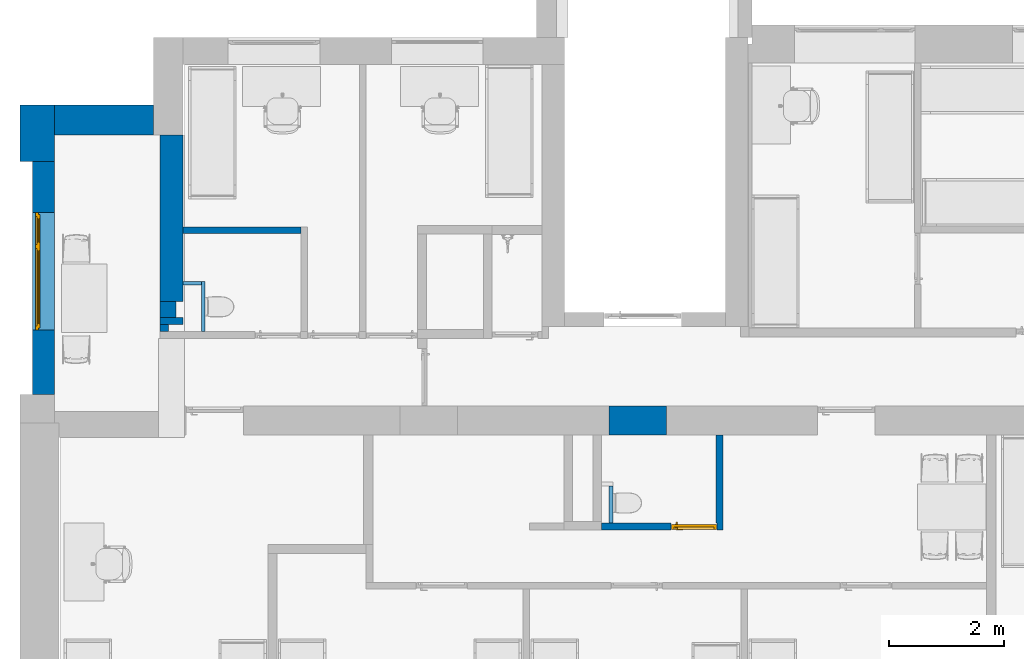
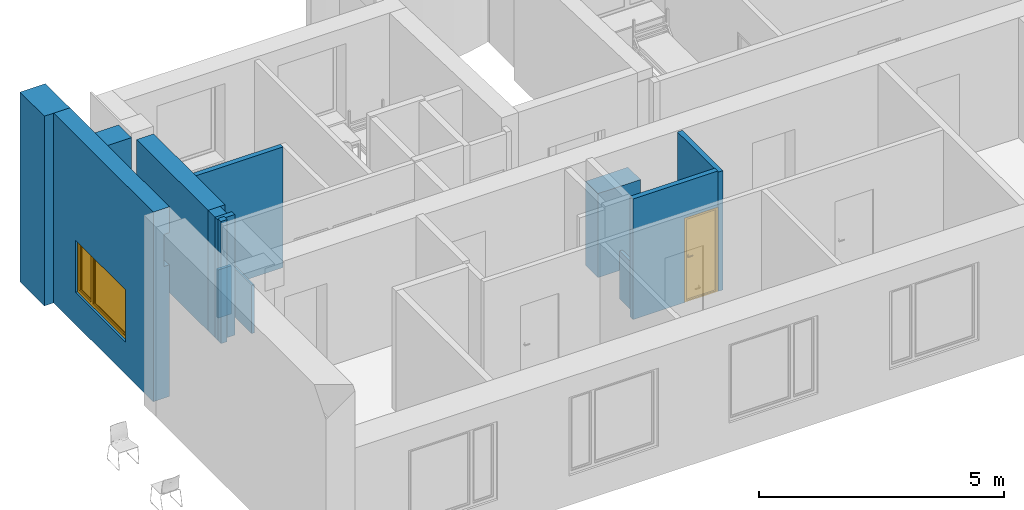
# One storey, part 4 of 46: 14 walls, 1 door, 1 window, 3 openings.
"""IFC2X3 building model written with IfcOpenShell, lengths in millimetres."""

from ifc_helpers import new_model, entity, si_unit, converted_unit, derived_unit, direction, frame, frame_2d, origin, place, context, subcontext, project, spatial, polyline, rectangle, extrude, clip, bounded_halfspace, faceted_brep, source, transform, mapped, material, material_list, layer, layer_set, layer_usage, type_object, type_shapes, element, fill, save


model = new_model("IFC2X3")

# Units and contexts
model_context = context("Model", 3, precision=0.01, world=origin(), true_north=direction((6.12303176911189e-17, 1.0)))
body_context = subcontext(model_context, "Body", "Model", "MODEL_VIEW")
ifc_project = project(units=[si_unit("LENGTHUNIT", "METRE", prefix="MILLI"), si_unit("AREAUNIT", "SQUARE_METRE"), si_unit("VOLUMEUNIT", "CUBIC_METRE"), converted_unit("PLANEANGLEUNIT", "DEGREE", entity("IfcRatioMeasure", 0.0174532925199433), si_unit("PLANEANGLEUNIT", "RADIAN"), dimensions=[0, 0, 0, 0, 0, 0, 0]), si_unit("MASSUNIT", "GRAM", prefix="KILO"), derived_unit("MASSDENSITYUNIT", [(si_unit("MASSUNIT", "GRAM", prefix="KILO"), 1), (si_unit("LENGTHUNIT", "METRE"), -3)]), si_unit("TIMEUNIT", "SECOND"), si_unit("FREQUENCYUNIT", "HERTZ"), si_unit("THERMODYNAMICTEMPERATUREUNIT", "DEGREE_CELSIUS"), derived_unit("THERMALTRANSMITTANCEUNIT", [(si_unit("MASSUNIT", "GRAM", prefix="KILO"), 1), (si_unit("THERMODYNAMICTEMPERATUREUNIT", "KELVIN"), -1), (si_unit("TIMEUNIT", "SECOND"), -3)]), derived_unit("VOLUMETRICFLOWRATEUNIT", [(si_unit("LENGTHUNIT", "METRE"), 3), (si_unit("TIMEUNIT", "SECOND"), -1)]), si_unit("ELECTRICCURRENTUNIT", "AMPERE"), si_unit("ELECTRICVOLTAGEUNIT", "VOLT"), si_unit("POWERUNIT", "WATT"), si_unit("FORCEUNIT", "NEWTON", prefix="KILO"), si_unit("ILLUMINANCEUNIT", "LUX"), si_unit("LUMINOUSFLUXUNIT", "LUMEN"), si_unit("LUMINOUSINTENSITYUNIT", "CANDELA"), derived_unit("USERDEFINED", [(si_unit("MASSUNIT", "GRAM", prefix="KILO"), -1), (si_unit("LENGTHUNIT", "METRE"), -2), (si_unit("TIMEUNIT", "SECOND"), 3), (si_unit("LUMINOUSFLUXUNIT", "LUMEN"), 1)]), derived_unit("LINEARVELOCITYUNIT", [(si_unit("LENGTHUNIT", "METRE"), 1), (si_unit("TIMEUNIT", "SECOND"), -1)]), si_unit("PRESSUREUNIT", "PASCAL"), derived_unit("USERDEFINED", [(si_unit("LENGTHUNIT", "METRE"), -2), (si_unit("MASSUNIT", "GRAM", prefix="KILO"), 1), (si_unit("TIMEUNIT", "SECOND"), -2)]), derived_unit("LINEARFORCEUNIT", [(si_unit("MASSUNIT", "GRAM", prefix="KILO"), 1), (si_unit("LENGTHUNIT", "METRE"), 1), (si_unit("TIMEUNIT", "SECOND"), -2), (si_unit("LENGTHUNIT", "METRE"), -1)]), derived_unit("PLANARFORCEUNIT", [(si_unit("MASSUNIT", "GRAM", prefix="KILO"), 1), (si_unit("LENGTHUNIT", "METRE"), 1), (si_unit("TIMEUNIT", "SECOND"), -2), (si_unit("LENGTHUNIT", "METRE"), -2)])], contexts=[model_context])

# Site, building, storey
site_placement = place(None, origin())
site = spatial("IfcSite", under=ifc_project, at=site_placement, Name="Default", CompositionType="ELEMENT")
building_placement = place(site_placement, origin())
building = spatial("IfcBuilding", under=site, at=building_placement, Name="SMA ARH", CompositionType="ELEMENT")
storey_placement = place(building_placement, frame((0.0, 0.0, 9910.0)))
storey = spatial("IfcBuildingStorey", under=building, at=storey_placement, Name="4 Korrus", CompositionType="ELEMENT", Elevation=9909.9999999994)

# Walls
ifc_material_1 = material(Name="_ol.olev sein")
ifc_layer_1 = layer(ifc_material_1, 520.0)
ifc_layer_set_1 = layer_set([ifc_layer_1], Name="Basic Wall:Generic - 520mm")
ifc_layer_usage_1 = layer_usage(ifc_layer_set_1, "AXIS2", "NEGATIVE", 260.0)
wall_type_1 = type_object("IfcWallType", Name="Basic Wall:Generic - 520mm", PredefinedType="STANDARD", material=ifc_layer_set_1)
wall_1_placement = place(storey_placement, frame((-100.0, 11510.0, 0.0)))
element("IfcWallStandardCase", 1, at=wall_1_placement, inside=storey, type_object=wall_type_1, material=ifc_layer_usage_1, Name="Basic Wall:Generic - 520mm", ObjectType="Basic Wall:Generic - 520mm", context=body_context, shape_type="SweptSolid", body=[
    extrude(rectangle(XDim=1725.00000000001, YDim=519.999999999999, at=frame_2d((862.500000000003, -1.13686837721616e-13), x_axis=(-1.0, 0.0))), origin(), (0.0, 0.0, 1.0), 3090.00000000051),
])
ifc_layer_2 = layer(ifc_material_1, 280.0)
ifc_layer_set_2 = layer_set([ifc_layer_2], Name="Basic Wall:Generic - 280mm")
ifc_layer_usage_2 = layer_usage(ifc_layer_set_2, "AXIS2", "NEGATIVE", 140.0)
wall_type_2 = type_object("IfcWallType", Name="Basic Wall:Generic - 280mm", PredefinedType="STANDARD", material=ifc_layer_set_2)
wall_2_placement = place(storey_placement, frame((1885.0, 8341.44692735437, 0.0), z_axis=(0.0, 0.0, 1.0), x_axis=(0.0, -1.0, 0.0)))
element("IfcWallStandardCase", 2, at=wall_2_placement, inside=storey, type_object=wall_type_2, material=ifc_layer_usage_2, Name="Basic Wall:Generic - 280mm", ObjectType="Basic Wall:Generic - 280mm", context=body_context, shape_type="SweptSolid", body=[
    extrude(rectangle(XDim=279.999999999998, YDim=280.0, at=frame_2d((139.999999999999, -2.8421709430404e-14), x_axis=(-1.0, 0.0))), origin(), (0.0, 0.0, 1.0), 3001.0500000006),
])
ifc_layer_3 = layer(ifc_material_1, 600.0)
ifc_layer_set_3 = layer_set([ifc_layer_3], Name="Basic Wall:Generic - 600mm")
ifc_layer_usage_3 = layer_usage(ifc_layer_set_3, "AXIS2", "NEGATIVE", 300.0)
wall_type_3 = type_object("IfcWallType", Name="Basic Wall:Generic - 600mm", PredefinedType="STANDARD", material=ifc_layer_set_3)
wall_3_placement = place(storey_placement, frame((-400.0, 10780.0, 0.0), z_axis=(0.0, 0.0, 1.0), x_axis=(0.0, 1.0, 0.0)))
element("IfcWallStandardCase", 3, at=wall_3_placement, inside=storey, type_object=wall_type_3, material=ifc_layer_usage_3, Name="Basic Wall:Generic - 600mm", ObjectType="Basic Wall:Generic - 600mm", context=body_context, shape_type="SweptSolid", body=[
    extrude(rectangle(XDim=990.0, YDim=600.0, at=frame_2d((495.0, 2.8421709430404e-14), x_axis=(-1.0, 0.0))), origin(), (0.0, 0.0, 1.0), 4720.00000000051),
])
ifc_layer_4 = layer(ifc_material_1, 400.0)
ifc_layer_set_4 = layer_set([ifc_layer_4], Name="Basic Wall:Generic - 400mm")
ifc_layer_usage_4 = layer_usage(ifc_layer_set_4, "AXIS2", "NEGATIVE", 200.0)
wall_type_4 = type_object("IfcWallType", Name="Basic Wall:Generic - 400mm", PredefinedType="STANDARD", material=ifc_layer_set_4)
wall_4_placement = place(storey_placement, frame((1945.0, 11250.0, 0.0), z_axis=(0.0, 0.0, 1.0), x_axis=(0.0, -1.0, 0.0)))
element("IfcWallStandardCase", 4, at=wall_4_placement, inside=storey, type_object=wall_type_4, material=ifc_layer_usage_4, Name="Basic Wall:Generic - 400mm", ObjectType="Basic Wall:Generic - 400mm", context=body_context, shape_type="Clipping", body=[
    clip(extrude(rectangle(XDim=2908.55307264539, YDim=400.0, at=frame_2d((1454.2765363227, -1.4210854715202e-14), x_axis=(-1.0, 0.0))), origin(), (0.0, 0.0, 1.0), 3001.0500000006), bounded_halfspace(frame((80.0, -200.0, 3001.0500000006), z_axis=(0.0, 0.0, -1.0), x_axis=(-1.0, 0.0, 0.0)), True, frame((80.0, -200.0, 3001.0500000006)), polyline([(0.0, 0.0), (2828.55307264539, 0.0), (2828.55307264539, 280.0), (2828.55307264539, 400.0), (1642.49999999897, 400.0), (1526.49999999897, 400.0), (0.0, 400.0), (0.0, 0.0)]))),
])
ifc_layer_usage_5 = layer_usage(ifc_layer_set_4, "AXIS2", "NEGATIVE", 200.0)
wall_5_placement = place(storey_placement, frame((1945.0, 8061.44692735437, 0.0), z_axis=(0.0, 0.0, 1.0), x_axis=(0.0, -1.0, 0.0)))
element("IfcWallStandardCase", 5, at=wall_5_placement, inside=storey, type_object=wall_type_4, material=ifc_layer_usage_5, Name="Basic Wall:Generic - 400mm", ObjectType="Basic Wall:Generic - 400mm", context=body_context, shape_type="Clipping", body=[
    clip(extrude(rectangle(XDim=120.000000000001, YDim=400.0, at=frame_2d((60.0000000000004, -2.8421709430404e-14), x_axis=(-1.0, 0.0))), origin(), (0.0, 0.0, 1.0), 3001.0500000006), bounded_halfspace(frame((0.0, -200.0, 3001.0500000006), z_axis=(0.0, 0.0, -1.0), x_axis=(-1.0, 0.0, 0.0)), True, frame((0.0, -200.0, 3001.0500000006)), polyline([(0.0, 0.0), (120.0, 0.0), (120.0, 400.0), (0.0, 400.0), (0.0, 280.0), (0.0, 0.0)]))),
])

# Wall, opening, window
ifc_layer_5 = layer(ifc_material_1, 380.0)
ifc_layer_set_5 = layer_set([ifc_layer_5], Name="Basic Wall:Generic - 380mm")
ifc_layer_usage_6 = layer_usage(ifc_layer_set_5, "AXIS2", "NEGATIVE", 190.0)
wall_type_5 = type_object("IfcWallType", Name="Basic Wall:Generic - 380mm", PredefinedType="STANDARD", material=ifc_layer_set_5)
wall_6_placement = place(storey_placement, frame((-290.0, 6720.0, 0.0), z_axis=(0.0, 0.0, 1.0), x_axis=(0.0, 1.0, 0.0)))
wall_6 = element("IfcWallStandardCase", 6, at=wall_6_placement, inside=storey, type_object=wall_type_5, material=ifc_layer_usage_6, Name="Basic Wall:Generic - 380mm", ObjectType="Basic Wall:Generic - 380mm", context=body_context, shape_type="Clipping", body=[
    clip(extrude(rectangle(XDim=4059.99999999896, YDim=380.0, at=frame_2d((2029.99999999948, 0.0), x_axis=(-1.0, 0.0))), origin(), (0.0, 0.0, 1.0), 4720.00000000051), bounded_halfspace(frame((0.0, -63.2428498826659, 3275.06435937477), z_axis=(0.0, 1.0, 0.0), x_axis=(-1.0, 0.0, 0.0)), True, frame((0.0, -63.2428498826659, 3275.06435937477), z_axis=(0.0, 1.0, 0.0), x_axis=(-1.0, 0.0, 0.0)), polyline([(0.0, 0.0), (0.0, 800.487635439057), (-4060.0, 658.709311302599), (-4060.0, -141.778324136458), (0.0, 0.0)]))),
])
opening_1_placement = place(wall_6_placement, frame((1125.0, -190.0, 800.0)))
opening_1 = element("IfcOpeningElement", 7, at=opening_1_placement, cuts=wall_6, Name="SMA_W2, 2-jaotus:A-00 - 2100x1300:1", ObjectType="Opening", context=body_context, shape_type="SweptSolid", body=[
    extrude(rectangle(XDim=1300.0, YDim=2050.0, at=frame_2d((650.0, 1025.0), x_axis=(1.0, 0.0))), frame((0.0, 0.0, 0.0), z_axis=(0.0, 1.0, 0.0), x_axis=(0.0, 0.0, 1.0)), (0.0, 0.0, 1.0), 380.0),
])
ifc_material_2 = material(Name="Glass")
ifc_material_3 = material(Name="Hall")
ifc_material_list_1 = material_list([ifc_material_2, ifc_material_3])
ifc_material_4 = material(Name="<Unnamed>")
ifc_material_list_2 = material_list([ifc_material_2, ifc_material_4, ifc_material_3, ifc_material_3, ifc_material_4])
window_style = type_object("IfcWindowStyle", Name="SMA_W2, 2-jaotus:A-00 - 2100x1300", ConstructionType="NOTDEFINED", OperationType="NOTDEFINED", ParameterTakesPrecedence=False, Sizeable=False, material=ifc_material_list_2)
shared_shape_1 = source(origin(), body_context, "Body", "Brep", [
    faceted_brep([(105.0, 270.0, 1195.0), (105.0, 270.0, 105.0), (1390.0, 270.0, 105.0), (1390.0, 270.0, 1195.0), (105.0, 290.0, 1195.0), (105.0, 290.0, 105.0), (1390.0, 290.0, 105.0), (1390.0, 290.0, 1195.0)], [[[0, 1, 2, 3]], [[1, 0, 4, 5]], [[2, 1, 5, 6]], [[3, 2, 6, 7]], [[4, 7, 6, 5]], [[0, 3, 7, 4]]]),
    faceted_brep([(1530.0, 270.0, 105.0), (1945.0, 270.0, 105.0), (1945.0, 270.0, 1195.0), (1530.0, 270.0, 1195.0), (1530.0, 290.0, 105.0), (1945.0, 290.0, 105.0), (1945.0, 290.0, 1195.0), (1530.0, 290.0, 1195.0)], [[[0, 1, 2, 3]], [[1, 0, 4, 5]], [[2, 1, 5, 6]], [[0, 3, 7, 4]], [[4, 7, 6, 5]], [[3, 2, 6, 7]]]),
    faceted_brep([(35.0, 255.0, 35.0), (1460.0, 255.0, 35.0), (1460.0, 255.0, 1265.0), (35.0, 255.0, 1265.0), (1390.0, 255.0, 1195.0), (1390.0, 255.0, 105.0), (105.0, 255.0, 105.0), (105.0, 255.0, 1195.0), (35.0, 305.0, 35.0), (1460.0, 305.0, 35.0), (1460.0, 305.0, 1265.0), (35.0, 305.0, 1265.0), (1390.0, 305.0, 1195.0), (1390.0, 305.0, 105.0), (105.0, 305.0, 105.0), (105.0, 305.0, 1195.0)], [[[0, 1, 2, 3], [4, 5, 6, 7]], [[1, 0, 8, 9]], [[2, 1, 9, 10]], [[0, 3, 11, 8]], [[5, 4, 12, 13]], [[6, 5, 13, 14]], [[7, 6, 14, 15]], [[8, 11, 10, 9], [12, 15, 14, 13]], [[3, 2, 10, 11]], [[4, 7, 15, 12]]]),
    faceted_brep([(1460.0, 255.0, 35.0), (2015.0, 255.0, 35.0), (2015.0, 255.0, 1265.0), (1460.0, 255.0, 1265.0), (1945.0, 255.0, 1195.0), (1945.0, 255.0, 105.0), (1530.0, 255.0, 105.0), (1530.0, 255.0, 1195.0), (1460.0, 305.0, 35.0), (2015.0, 305.0, 35.0), (2015.0, 305.0, 1265.0), (1460.0, 305.0, 1265.0), (1945.0, 305.0, 1195.0), (1945.0, 305.0, 105.0), (1530.0, 305.0, 105.0), (1530.0, 305.0, 1195.0)], [[[0, 1, 2, 3], [4, 5, 6, 7]], [[1, 0, 8, 9]], [[2, 1, 9, 10]], [[0, 3, 11, 8]], [[5, 4, 12, 13]], [[6, 5, 13, 14]], [[7, 6, 14, 15]], [[8, 11, 10, 9], [12, 15, 14, 13]], [[3, 2, 10, 11]], [[4, 7, 15, 12]]]),
    faceted_brep([(0.0, 280.0, 0.0), (2050.0, 280.0, 0.0), (2050.0, 280.0, 1300.0), (0.0, 280.0, 1300.0), (2015.0, 280.0, 35.0), (1460.0, 280.0, 35.0), (1460.0, 280.0, 1265.0), (2015.0, 280.0, 1265.0), (70.0, 280.0, 1230.0), (1425.0, 280.0, 1230.0), (1425.0, 280.0, 70.0), (70.0, 280.0, 70.0), (0.0, 330.0, 0.0), (2050.0, 330.0, 0.0), (2050.0, 330.0, 1300.0), (0.0, 330.0, 1300.0), (1425.0, 330.0, 1230.0), (1425.0, 330.0, 70.0), (70.0, 330.0, 70.0), (70.0, 330.0, 1230.0), (2015.0, 305.0, 35.0), (1460.0, 305.0, 35.0), (1460.0, 305.0, 1265.0), (2015.0, 305.0, 1265.0), (1495.0, 330.0, 1230.0), (1495.0, 330.0, 70.0), (1980.0, 330.0, 70.0), (1980.0, 330.0, 1230.0), (1495.0, 305.0, 1230.0), (1495.0, 305.0, 70.0), (1980.0, 305.0, 70.0), (1980.0, 305.0, 1230.0)], [[[0, 1, 2, 3], [4, 5, 6, 7], [8, 9, 10, 11]], [[1, 0, 12, 13]], [[2, 1, 13, 14]], [[0, 3, 15, 12]], [[10, 9, 16, 17]], [[11, 10, 17, 18]], [[8, 11, 18, 19]], [[20, 21, 5, 4]], [[21, 22, 6, 5]], [[23, 20, 4, 7]], [[12, 15, 14, 13], [19, 18, 17, 16], [24, 25, 26, 27]], [[25, 24, 28, 29]], [[26, 25, 29, 30]], [[27, 26, 30, 31]], [[21, 20, 23, 22], [28, 31, 30, 29]], [[3, 2, 14, 15]], [[24, 27, 31, 28]], [[9, 8, 19, 16]], [[22, 23, 7, 6]]]),
])
type_shapes(window_style, [shared_shape_1])
window_placement = place(opening_1_placement, origin())
window = element("IfcWindow", 8, at=window_placement, inside=storey, type_object=window_style, material=ifc_material_list_1, Name="SMA_W2, 2-jaotus:A-00 - 2100x1300", ObjectType="SMA_W2, 2-jaotus:A-00 - 2100x1300", OverallHeight=1300.0, OverallWidth=2050.0, context=body_context, shape_type="MappedRepresentation", body=[
    mapped(shared_shape_1, transform((0.0, 0.0, 0.0), scale=1.0)),
])
fill(opening_1, window)

# Wall
ifc_material_5 = material(Name="EST. Ehitusplaat. Kipsplaat")
ifc_layer_6 = layer(ifc_material_5, 12.5)
ifc_layer_7 = layer(ifc_material_5, 12.5)
ifc_material_6 = material(Name="EST. Soojustus. Mineraalvill. Default")
ifc_layer_8 = layer(ifc_material_6, 66.0)
ifc_layer_9 = layer(ifc_material_5, 12.5)
ifc_layer_10 = layer(ifc_material_5, 12.5)
ifc_layer_set_6 = layer_set([ifc_layer_6, ifc_layer_7, ifc_layer_8, ifc_layer_9, ifc_layer_10], Name="Basic Wall:SS-05_Kips, 66mm metallkarkass")
ifc_layer_usage_7 = layer_usage(ifc_layer_set_6, "AXIS2", "NEGATIVE", 58.0)
wall_type_6 = type_object("IfcWallType", Name="Basic Wall:SS-05_Kips, 66mm metallkarkass", PredefinedType="STANDARD", material=ifc_layer_set_6)
wall_7_placement = place(storey_placement, frame((2145.0, 9585.50000000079, 0.0)))
element("IfcWallStandardCase", 9, at=wall_7_placement, inside=storey, type_object=wall_type_6, material=ifc_layer_usage_7, Name="Basic Wall:SS-05_Kips, 66mm metallkarkass", ObjectType="Basic Wall:SS-05_Kips, 66mm metallkarkass", context=body_context, shape_type="SweptSolid", body=[
    extrude(rectangle(XDim=2052.32130046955, YDim=116.0, at=frame_2d((1026.16065023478, -3.19744231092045e-14), x_axis=(-1.0, 0.0))), origin(), (0.0, 0.0, 1.0), 3001.0500000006),
])

# Wall, opening, door
ifc_layer_11 = layer(ifc_material_5, 12.5)
ifc_layer_12 = layer(ifc_material_5, 12.5)
ifc_material_7 = material(Name="EST. Õhkvahe. Roov. Kipsplaadi alusroov. Vertikaalne")
ifc_layer_13 = layer(ifc_material_7, 66.0)
ifc_layer_14 = layer(ifc_material_5, 12.5)
ifc_layer_15 = layer(ifc_material_5, 12.5)
ifc_layer_set_7 = layer_set([ifc_layer_11, ifc_layer_12, ifc_layer_13, ifc_layer_14, ifc_layer_15], Name="Basic Wall:SS-03_Kips, 66mm metallkarkass")
ifc_layer_usage_8 = layer_usage(ifc_layer_set_7, "AXIS2", "NEGATIVE", 58.0)
wall_type_7 = type_object("IfcWallType", Name="Basic Wall:SS-03_Kips, 66mm metallkarkass", PredefinedType="STANDARD", material=ifc_layer_set_7)
wall_8_placement = place(storey_placement, frame((9440.0, 4418.0, 0.0)))
wall_8 = element("IfcWallStandardCase", 10, at=wall_8_placement, inside=storey, type_object=wall_type_7, material=ifc_layer_usage_8, Name="Basic Wall:SS-03_Kips, 66mm metallkarkass", ObjectType="Basic Wall:SS-03_Kips, 66mm metallkarkass", context=body_context, shape_type="SweptSolid", body=[
    extrude(rectangle(XDim=2002.00000000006, YDim=116.0, at=frame_2d((1001.00000000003, 9.2370555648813e-14), x_axis=(-1.0, 0.0))), origin(), (0.0, 0.0, 1.0), 3001.0500000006),
])
opening_2_placement = place(wall_8_placement, frame((1214.50000000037, -58.0, 0.0)))
opening_2 = element("IfcOpeningElement", 11, at=opening_2_placement, cuts=wall_8, Name="SMA_D01, 1-poolne:SU-P-06 - 800x2100 DUŠŠ:1", ObjectType="Opening", context=body_context, shape_type="SweptSolid", body=[
    extrude(rectangle(XDim=2099.99999999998, YDim=800.0, at=frame_2d((1049.99999999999, 400.0), x_axis=(1.0, 0.0))), frame((0.0, 0.0, 0.0), z_axis=(0.0, 1.0, 0.0), x_axis=(0.0, 0.0, 1.0)), (0.0, 0.0, 1.0), 116.0),
])
ifc_material_8 = material(Name="EST. Metall. Alumiinium. Värvitud. RAL7023 (Concrete grey)")
ifc_material_9 = material(Name="EST. Klaas. 3x. Default")
ifc_material_list_3 = material_list([ifc_material_8, ifc_material_8, ifc_material_4, ifc_material_9, ifc_material_4, ifc_material_8, ifc_material_4])
door_style = type_object("IfcDoorStyle", Name="SMA_D01, 1-poolne:SU-P-06 - 800x2100 DUŠŠ", ConstructionType="NOTDEFINED", OperationType="SINGLE_SWING_RIGHT", ParameterTakesPrecedence=False, Sizeable=False, material=ifc_material_list_3)
shared_shape_2 = source(origin(), body_context, "Body", "Brep", [
    faceted_brep([(110.0, 6.0, 1112.5), (110.0, 44.0, 1112.5), (85.0, 44.0, 1112.5), (85.0, 1.0, 1112.5), (205.0, 1.0, 1112.5), (205.0, 6.0, 1112.5), (110.0, 6.0, 1087.5), (205.0, 6.0, 1087.5), (205.0, 1.0, 1087.5), (85.0, 1.0, 1087.5), (85.0, 44.0, 1087.5), (110.0, 44.0, 1087.5)], [[[0, 1, 2, 3, 4, 5]], [[6, 7, 8, 9, 10, 11]], [[1, 0, 6, 11]], [[2, 1, 11, 10]], [[3, 2, 10, 9]], [[4, 3, 9, 8]], [[5, 4, 8, 7]], [[0, 5, 7, 6]]]),
    faceted_brep([(122.5, 44.0, 1137.5), (122.5, 46.0, 1137.5), (72.4999999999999, 46.0, 1137.5), (72.4999999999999, 44.0, 1137.5), (122.5, 44.0, 1017.5), (72.4999999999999, 44.0, 1017.5), (72.4999999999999, 46.0, 1017.5), (122.5, 46.0, 1017.5)], [[[0, 1, 2, 3]], [[4, 5, 6, 7]], [[1, 0, 4, 7]], [[2, 1, 7, 6]], [[3, 2, 6, 5]], [[0, 3, 5, 4]]]),
    faceted_brep([(110.0, 136.0, 1112.5), (205.0, 136.0, 1112.5), (205.0, 141.0, 1112.5), (85.0, 141.0, 1112.5), (85.0, 98.0, 1112.5), (110.0, 98.0, 1112.5), (110.0, 136.0, 1087.5), (110.0, 98.0, 1087.5), (85.0, 98.0, 1087.5), (85.0, 141.0, 1087.5), (205.0, 141.0, 1087.5), (205.0, 136.0, 1087.5)], [[[0, 1, 2, 3, 4, 5]], [[6, 7, 8, 9, 10, 11]], [[5, 7, 6, 0]], [[4, 8, 7, 5]], [[3, 9, 8, 4]], [[2, 10, 9, 3]], [[1, 11, 10, 2]], [[0, 6, 11, 1]]]),
    faceted_brep([(122.5, 98.0, 1137.5), (72.4999999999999, 98.0, 1137.5), (72.4999999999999, 96.0, 1137.5), (122.5, 96.0, 1137.5), (122.5, 98.0, 1017.5), (122.5, 96.0, 1017.5), (72.4999999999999, 96.0, 1017.5), (72.4999999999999, 98.0, 1017.5)], [[[0, 1, 2, 3]], [[4, 5, 6, 7]], [[3, 5, 4, 0]], [[2, 6, 5, 3]], [[1, 7, 6, 2]], [[0, 4, 7, 1]]]),
    faceted_brep([(750.0, 6.0, 30.0), (750.0, 6.0, 0.0), (750.0, 46.0, 0.0), (750.0, 46.0, 20.0), (750.0, 46.0, 30.0), (50.0, 6.0, 30.0), (50.0, 46.0, 30.0), (50.0, 46.0, 20.0), (50.0, 46.0, 0.0), (50.0, 6.0, 0.0), (35.0, 46.0, 0.0), (35.0, 96.0, 0.0), (765.0, 96.0, 0.0), (765.0, 46.0, 0.0), (765.0, 96.0, 20.0), (765.0, 46.0, 20.0), (35.0, 96.0, 20.0), (35.0, 46.0, 20.0)], [[[0, 1, 2, 3, 4]], [[5, 6, 7, 8, 9]], [[1, 0, 5, 9]], [[2, 1, 9, 8, 10, 11, 12, 13]], [[6, 4, 3, 7]], [[0, 4, 6, 5]], [[14, 15, 13, 12]], [[16, 11, 10, 17]], [[15, 14, 16, 17, 7, 3]], [[13, 15, 3, 2]], [[14, 12, 11, 16]], [[17, 10, 8, 7]]]),
    faceted_brep([(790.0, 6.0, 0.0), (750.0, 6.0, 0.0), (750.0, 46.0, 0.0), (765.0, 46.0, 0.0), (765.0, 96.0, 0.0), (790.0, 96.0, 0.0), (790.0, 6.0, 2090.0), (10.0, 6.0, 2090.0), (10.0, 6.0, 0.0), (50.0, 6.0, 0.0), (50.0, 6.0, 2050.0), (750.0, 6.0, 2050.0), (750.0, 46.0, 2050.0), (50.0, 46.0, 2050.0), (50.0, 46.0, 0.0), (35.0, 46.0, 0.0), (35.0, 46.0, 2065.0), (765.0, 46.0, 2065.0), (765.0, 96.0, 2065.0), (35.0, 96.0, 2065.0), (35.0, 96.0, 0.0), (10.0, 96.0, 0.0), (10.0, 96.0, 2090.0), (790.0, 96.0, 2090.0)], [[[0, 1, 2, 3, 4, 5]], [[1, 0, 6, 7, 8, 9, 10, 11]], [[2, 1, 11, 12]], [[3, 2, 12, 13, 14, 15, 16, 17]], [[4, 3, 17, 18]], [[5, 4, 18, 19, 20, 21, 22, 23]], [[0, 5, 23, 6]], [[8, 7, 22, 21]], [[9, 8, 21, 20, 15, 14]], [[10, 9, 14, 13]], [[16, 15, 20, 19]], [[11, 10, 13, 12]], [[17, 16, 19, 18]], [[7, 6, 23, 22]]]),
    faceted_brep([(35.0, 46.0, 2065.0), (35.0, 46.0, 20.0), (765.0, 46.0, 20.0), (765.0, 46.0, 2065.0), (35.0, 96.0, 2065.0), (765.0, 96.0, 2065.0), (765.0, 96.0, 20.0), (35.0, 96.0, 20.0)], [[[0, 1, 2, 3]], [[4, 5, 6, 7]], [[1, 0, 4, 7]], [[2, 1, 7, 6]], [[3, 2, 6, 5]], [[0, 3, 5, 4]]]),
])
type_shapes(door_style, [shared_shape_2])
door_placement = place(opening_2_placement, origin())
door = element("IfcDoor", 12, at=door_placement, inside=storey, type_object=door_style, material=ifc_material_8, Name="SMA_D01, 1-poolne:SU-P-06 - 800x2100 DUŠŠ", ObjectType="SMA_D01, 1-poolne:SU-P-06 - 800x2100 DUŠŠ", OverallHeight=2099.99999999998, OverallWidth=800.0, context=body_context, shape_type="MappedRepresentation", body=[
    mapped(shared_shape_2, transform((0.0, 0.0, 0.0), scale=1.0)),
])
fill(opening_2, door)

# Wall, opening
ifc_layer_usage_9 = layer_usage(ifc_layer_set_7, "AXIS2", "NEGATIVE", 58.0)
wall_9_placement = place(storey_placement, frame((11500.0, 6010.0, 0.0), z_axis=(0.0, 0.0, 1.0), x_axis=(0.0, -1.0, 0.0)))
wall_9 = element("IfcWallStandardCase", 13, at=wall_9_placement, inside=storey, type_object=wall_type_7, material=ifc_layer_usage_9, Name="Basic Wall:SS-03_Kips, 66mm metallkarkass", ObjectType="Basic Wall:SS-03_Kips, 66mm metallkarkass", context=body_context, shape_type="SweptSolid", body=[
    extrude(rectangle(XDim=1650.00000000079, YDim=116.0, at=frame_2d((825.000000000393, 3.90798504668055e-14), x_axis=(-1.0, 0.0))), origin(), (0.0, 0.0, 1.0), 2970.0000000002),
])
opening_3_placement = place(wall_9_placement, origin())
element("IfcOpeningElement", 14, at=opening_3_placement, cuts=wall_9, Name="Basic Wall:SS-03_Kips, 66mm metallkarkass", ObjectType="Opening", context=body_context, shape_type="SweptSolid", body=[
    extrude(rectangle(XDim=2099.99999999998, YDim=116.0, at=frame_2d((-2.70006239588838e-13, -1.02318153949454e-12), x_axis=(0.0, 1.0))), frame((1592.0, -845.500000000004, 1050.0), z_axis=(0.0, 1.0, 0.0), x_axis=(-1.0, 0.0, 0.0)), (0.0, 0.0, 1.0), 800.0),
])

# Walls
ifc_material_10 = material(Name="EST. Põrand. Plaatkate")
ifc_layer_16 = layer(ifc_material_10, 10.0)
ifc_layer_17 = layer(ifc_material_5, 12.5)
ifc_layer_18 = layer(ifc_material_7, 42.0)
ifc_layer_set_8 = layer_set([ifc_layer_16, ifc_layer_17, ifc_layer_18], Name="Basic Wall:SS-04 - loputuskast")
ifc_layer_usage_10 = layer_usage(ifc_layer_set_8, "AXIS2", "POSITIVE", -32.25)
wall_type_8 = type_object("IfcWallType", Name="Basic Wall:SS-04 - loputuskast", PredefinedType="STANDARD", material=ifc_layer_set_8)
wall_10_placement = place(storey_placement, frame((9607.75000000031, 4476.0, 0.0), z_axis=(0.0, 0.0, 1.0), x_axis=(0.0, 1.0, 0.0)))
element("IfcWallStandardCase", 15, at=wall_10_placement, inside=storey, type_object=wall_type_8, material=ifc_layer_usage_10, Name="Basic Wall:SS-04 - loputuskast", ObjectType="Basic Wall:SS-04 - loputuskast", context=body_context, shape_type="SweptSolid", body=[
    extrude(rectangle(XDim=652.500000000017, YDim=64.5000000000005, at=frame_2d((326.250000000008, 0.0), x_axis=(-1.0, 0.0))), origin(), (0.0, 0.0, 1.0), 1200.0),
])
ifc_layer_usage_11 = layer_usage(ifc_layer_set_8, "AXIS2", "POSITIVE", -32.25)
wall_11_placement = place(storey_placement, frame((2145.0, 8662.75000000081, 0.0)))
element("IfcWallStandardCase", 16, at=wall_11_placement, inside=storey, type_object=wall_type_8, material=ifc_layer_usage_11, Name="Basic Wall:SS-04 - loputuskast", ObjectType="Basic Wall:SS-04 - loputuskast", context=body_context, shape_type="SweptSolid", body=[
    extrude(rectangle(XDim=319.999999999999, YDim=64.5000000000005, at=frame_2d((160.0, -2.59348098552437e-13), x_axis=(-1.0, 0.0))), origin(), (0.0, 0.0, 1.0), 1200.0),
])
ifc_layer_usage_12 = layer_usage(ifc_layer_set_8, "AXIS2", "POSITIVE", -32.25)
wall_12_placement = place(storey_placement, frame((2497.25000000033, 7816.0, 0.0), z_axis=(0.0, 0.0, 1.0), x_axis=(0.0, 1.0, 0.0)))
element("IfcWallStandardCase", 17, at=wall_12_placement, inside=storey, type_object=wall_type_8, material=ifc_layer_usage_12, Name="Basic Wall:SS-04 - loputuskast", ObjectType="Basic Wall:SS-04 - loputuskast", context=body_context, shape_type="SweptSolid", body=[
    extrude(rectangle(XDim=879.000000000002, YDim=64.5000000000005, at=frame_2d((439.500000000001, -2.8421709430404e-14), x_axis=(-1.0, 0.0))), origin(), (0.0, 0.0, 1.0), 1200.0),
])
ifc_material_11 = material(Name="EST. Müüritis. Väikeplokk. Kergkruusplokk")
ifc_layer_19 = layer(ifc_material_11, 510.0)
ifc_layer_set_9 = layer_set([ifc_layer_19], Name="Basic Wall:SS-03_Fibo 510mm kinnilaotav ava")
ifc_layer_usage_13 = layer_usage(ifc_layer_set_9, "AXIS2", "NEGATIVE", 255.0)
wall_type_9 = type_object("IfcWallType", Name="Basic Wall:SS-03_Fibo 510mm kinnilaotav ava", PredefinedType="STANDARD", material=ifc_layer_set_9)
wall_13_placement = place(storey_placement, frame((9575.0, 6265.0, 0.0)))
element("IfcWallStandardCase", 18, at=wall_13_placement, inside=storey, type_object=wall_type_9, material=ifc_layer_usage_13, Name="Basic Wall:SS-03_Fibo 510mm kinnilaotav ava", ObjectType="Basic Wall:SS-03_Fibo 510mm kinnilaotav ava", context=body_context, shape_type="SweptSolid", body=[
    extrude(rectangle(XDim=999.999999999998, YDim=510.000000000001, at=frame_2d((499.999999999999, 0.0), x_axis=(-1.0, 0.0))), origin(), (0.0, 0.0, 1.0), 2090.00000000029),
])
ifc_layer_20 = layer(ifc_material_5, 12.5)
ifc_layer_21 = layer(ifc_material_5, 12.5)
ifc_layer_22 = layer(ifc_material_7, 95.0)
ifc_layer_23 = layer(ifc_material_5, 12.5)
ifc_layer_24 = layer(ifc_material_5, 12.5)
ifc_layer_set_10 = layer_set([ifc_layer_20, ifc_layer_21, ifc_layer_22, ifc_layer_23, ifc_layer_24], Name="Basic Wall:SS-04_Kips, 95mm metallkarkass")
ifc_layer_usage_14 = layer_usage(ifc_layer_set_10, "AXIS2", "NEGATIVE", 72.5)
wall_type_10 = type_object("IfcWallType", Name="Basic Wall:SS-04_Kips, 95mm metallkarkass", PredefinedType="STANDARD", material=ifc_layer_set_10)
wall_14_placement = place(storey_placement, frame((1818.28406728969, 7941.44692735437, 0.0), z_axis=(0.0, 0.0, 1.0), x_axis=(0.0, -1.0, 0.0)))
element("IfcWallStandardCase", 19, at=wall_14_placement, inside=storey, type_object=wall_type_10, material=ifc_layer_usage_14, Name="Basic Wall:SS-04_Kips, 95mm metallkarkass", ObjectType="Basic Wall:SS-04_Kips, 95mm metallkarkass", context=body_context, shape_type="SweptSolid", body=[
    extrude(rectangle(XDim=125.446927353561, YDim=145.0, at=frame_2d((62.7234636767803, 4.2632564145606e-14), x_axis=(-1.0, 0.0))), origin(), (0.0, 0.0, 1.0), 3041.0500000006),
])

save(model, "model.ifc")
